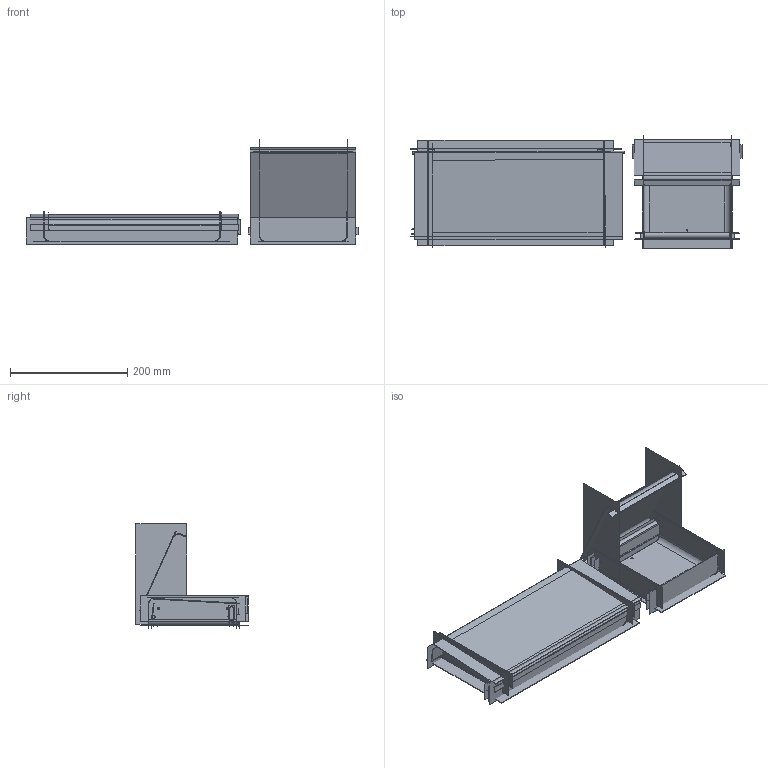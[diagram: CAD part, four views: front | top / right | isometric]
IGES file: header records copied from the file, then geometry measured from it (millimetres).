
Global section: file name: C:\Users\utente\Desktop\3d sito\CITERA\CITERA.igs; native system: Rhinoceros ( Mar  9 2011 ); preprocessor: Trout Lake IGES 012 Mar  9 2011; date: 170519.081557; units: millimetre
Bounding box: 566.57 x 191.4 x 178.13 mm (x, y, z)
Surface area: 686468.1 mm2 (no closed solid volume)
Topology: 0 solids, 0 shells, 208 faces, 832 edges, 832 vertices
Faces by surface type: bspline 208
